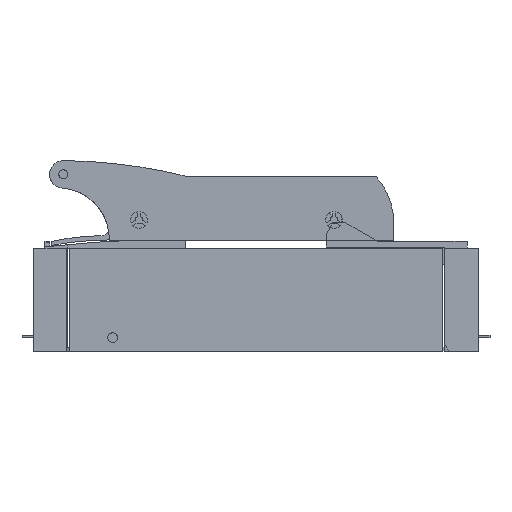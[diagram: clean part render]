
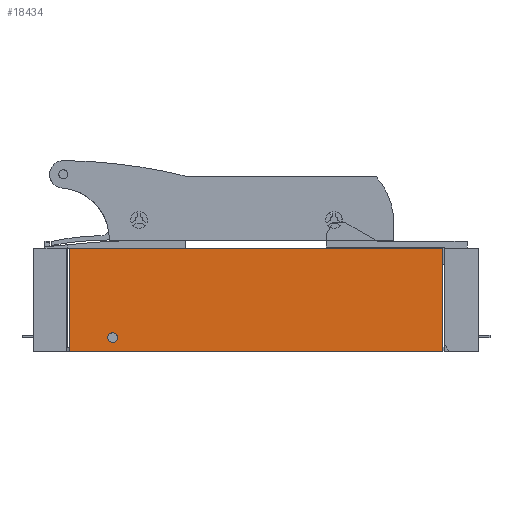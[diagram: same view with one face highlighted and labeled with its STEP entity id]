
A CAD part, left-side view. The second image highlights one B-rep face of the part: STEP entity #18434.
In plain terms, the highlighted planar face has unit normal (-1, 0, 0).
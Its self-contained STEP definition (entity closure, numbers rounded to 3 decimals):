
#18408=AXIS2_PLACEMENT_3D('Plane Axis2P3D',#18405,#18406,#18407) ;
#18418=AXIS2_PLACEMENT_3D('Circle Axis2P3D',#18416,#18417,$) ;
#18427=AXIS2_PLACEMENT_3D('Circle Axis2P3D',#18425,#18426,$) ;
#1238=CARTESIAN_POINT('Vertex',(-52.75,81.5,25.)) ;
#1241=CARTESIAN_POINT('Line Origine',(-52.75,81.5,47.5)) ;
#1245=CARTESIAN_POINT('Vertex',(-52.75,81.5,70.)) ;
#1272=CARTESIAN_POINT('Line Origine',(-52.75,0.,70.)) ;
#1276=CARTESIAN_POINT('Vertex',(-52.75,-81.5,70.)) ;
#3737=CARTESIAN_POINT('Vertex',(-52.75,-81.5,25.)) ;
#3740=CARTESIAN_POINT('Line Origine',(-52.75,0.,25.)) ;
#17753=CARTESIAN_POINT('Line Origine',(-52.75,-81.5,47.5)) ;
#18405=CARTESIAN_POINT('Axis2P3D Location',(-52.75,0.,25.)) ;
#18416=CARTESIAN_POINT('Axis2P3D Location',(-52.75,62.5,31.)) ;
#18420=CARTESIAN_POINT('Vertex',(-52.75,60.35,31.)) ;
#18422=CARTESIAN_POINT('Vertex',(-52.75,64.65,31.)) ;
#18425=CARTESIAN_POINT('Axis2P3D Location',(-52.75,62.5,31.)) ;
#1242=DIRECTION('Vector Direction',(0.,0.,1.)) ;
#1273=DIRECTION('Vector Direction',(0.,-1.,0.)) ;
#3741=DIRECTION('Vector Direction',(0.,-1.,0.)) ;
#17754=DIRECTION('Vector Direction',(0.,0.,1.)) ;
#18406=DIRECTION('Axis2P3D Direction',(1.,0.,-0.)) ;
#18407=DIRECTION('Axis2P3D XDirection',(0.,0.,1.)) ;
#18417=DIRECTION('Axis2P3D Direction',(1.,0.,-0.)) ;
#18426=DIRECTION('Axis2P3D Direction',(1.,0.,-0.)) ;
#1243=VECTOR('Line Direction',#1242,1.) ;
#1274=VECTOR('Line Direction',#1273,1.) ;
#3742=VECTOR('Line Direction',#3741,1.) ;
#17755=VECTOR('Line Direction',#17754,1.) ;
#18411=ORIENTED_EDGE('',*,*,#17757,.T.) ;
#18412=ORIENTED_EDGE('',*,*,#1278,.F.) ;
#18413=ORIENTED_EDGE('',*,*,#1247,.F.) ;
#18414=ORIENTED_EDGE('',*,*,#3744,.T.) ;
#18431=ORIENTED_EDGE('',*,*,#18424,.T.) ;
#18432=ORIENTED_EDGE('',*,*,#18429,.T.) ;
#18433=FACE_BOUND('',#18430,.T.) ;
#18434=ADVANCED_FACE('Hauptkoerper nicht benutzen',(#18415,#18433),#18409,.F.) ;
#18419=CIRCLE('generated circle',#18418,2.15) ;
#18428=CIRCLE('generated circle',#18427,2.15) ;
#1247=EDGE_CURVE('',#1239,#1246,#1244,.T.) ;
#1278=EDGE_CURVE('',#1246,#1277,#1275,.T.) ;
#3744=EDGE_CURVE('',#1239,#3738,#3743,.T.) ;
#17757=EDGE_CURVE('',#3738,#1277,#17756,.T.) ;
#18424=EDGE_CURVE('',#18421,#18423,#18419,.T.) ;
#18429=EDGE_CURVE('',#18423,#18421,#18428,.T.) ;
#18410=EDGE_LOOP('',(#18411,#18412,#18413,#18414)) ;
#18430=EDGE_LOOP('',(#18431,#18432)) ;
#18415=FACE_OUTER_BOUND('',#18410,.T.) ;
#1244=LINE('Line',#1241,#1243) ;
#1275=LINE('Line',#1272,#1274) ;
#3743=LINE('Line',#3740,#3742) ;
#17756=LINE('Line',#17753,#17755) ;
#18409=PLANE('Plane',#18408) ;
#1239=VERTEX_POINT('',#1238) ;
#1246=VERTEX_POINT('',#1245) ;
#1277=VERTEX_POINT('',#1276) ;
#3738=VERTEX_POINT('',#3737) ;
#18421=VERTEX_POINT('',#18420) ;
#18423=VERTEX_POINT('',#18422) ;
